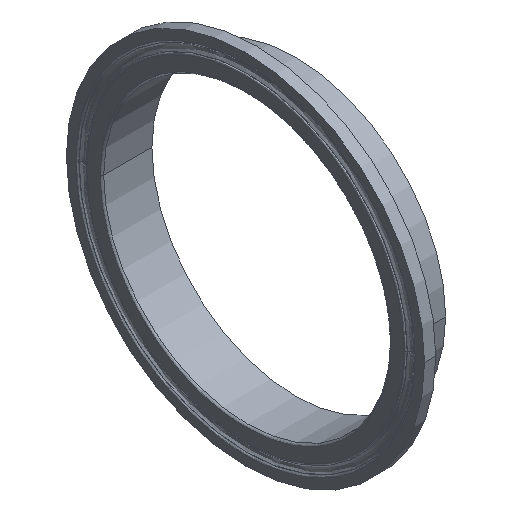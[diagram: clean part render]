
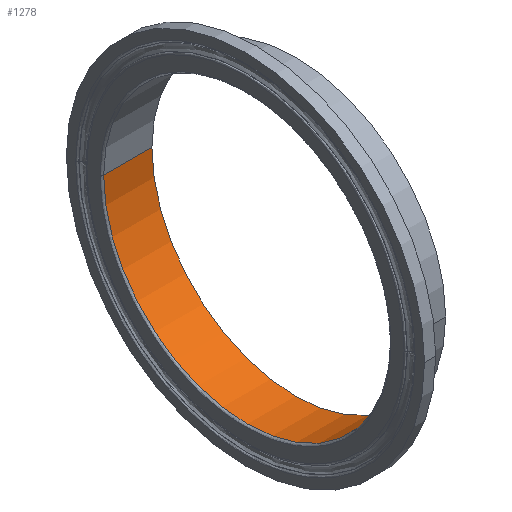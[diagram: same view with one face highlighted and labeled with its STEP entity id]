
A CAD part, isometric view. The second image highlights one B-rep face of the part: STEP entity #1278.
In plain terms, the highlighted cylindrical face has radius 36.449 mm (diameter 72.898 mm), a partial arc.
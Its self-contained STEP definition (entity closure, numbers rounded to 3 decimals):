
#8 = EDGE_CURVE ( 'NONE', #343, #476, #1443, .T. ) ;
#51 = CARTESIAN_POINT ( 'NONE',  ( 0., 36.449, 0. ) ) ;
#242 = DIRECTION ( 'NONE',  ( 0., 1., 0. ) ) ;
#269 = CYLINDRICAL_SURFACE ( 'NONE', #818, 36.449 ) ;
#314 = CARTESIAN_POINT ( 'NONE',  ( -12.243, 0., 0. ) ) ;
#330 = ORIENTED_EDGE ( 'NONE', *, *, #8, .F. ) ;
#342 = CARTESIAN_POINT ( 'NONE',  ( 0., 0., 0. ) ) ;
#343 = VERTEX_POINT ( 'NONE', #1015 ) ;
#391 = VECTOR ( 'NONE', #1059, 1000. ) ;
#399 = DIRECTION ( 'NONE',  ( 0., 1., 0. ) ) ;
#429 = CIRCLE ( 'NONE', #917, 36.449 ) ;
#476 = VERTEX_POINT ( 'NONE', #51 ) ;
#562 = DIRECTION ( 'NONE',  ( 1., 0., 0. ) ) ;
#584 = DIRECTION ( 'NONE',  ( -1., 0., 0. ) ) ;
#644 = AXIS2_PLACEMENT_3D ( 'NONE', #342, #584, #242 ) ;
#648 = ORIENTED_EDGE ( 'NONE', *, *, #998, .F. ) ;
#818 = AXIS2_PLACEMENT_3D ( 'NONE', #1397, #1383, #1279 ) ;
#845 = VECTOR ( 'NONE', #1430, 1000. ) ;
#873 = CIRCLE ( 'NONE', #644, 36.449 ) ;
#917 = AXIS2_PLACEMENT_3D ( 'NONE', #314, #562, #399 ) ;
#956 = VERTEX_POINT ( 'NONE', #1437 ) ;
#998 = EDGE_CURVE ( 'NONE', #956, #343, #429, .T. ) ;
#1015 = CARTESIAN_POINT ( 'NONE',  ( -12.243, 36.449, 0. ) ) ;
#1059 = DIRECTION ( 'NONE',  ( 1., 0., 0. ) ) ;
#1066 = CARTESIAN_POINT ( 'NONE',  ( 0., -36.449, 0. ) ) ;
#1073 = ORIENTED_EDGE ( 'NONE', *, *, #1162, .T. ) ;
#1128 = ORIENTED_EDGE ( 'NONE', *, *, #1312, .F. ) ;
#1162 = EDGE_CURVE ( 'NONE', #956, #1174, #1307, .T. ) ;
#1174 = VERTEX_POINT ( 'NONE', #1066 ) ;
#1237 = FACE_OUTER_BOUND ( 'NONE', #1507, .T. ) ;
#1278 = ADVANCED_FACE ( 'NONE', ( #1237 ), #269, .F. ) ;
#1279 = DIRECTION ( 'NONE',  ( 0., 1., 0. ) ) ;
#1307 = LINE ( 'NONE', #1434, #391 ) ;
#1312 = EDGE_CURVE ( 'NONE', #476, #1174, #873, .T. ) ;
#1383 = DIRECTION ( 'NONE',  ( 1., 0., 0. ) ) ;
#1397 = CARTESIAN_POINT ( 'NONE',  ( 45.786, 0., 0. ) ) ;
#1414 = CARTESIAN_POINT ( 'NONE',  ( 45.786, 36.449, 0. ) ) ;
#1430 = DIRECTION ( 'NONE',  ( 1., 0., 0. ) ) ;
#1434 = CARTESIAN_POINT ( 'NONE',  ( 45.786, -36.449, 0. ) ) ;
#1437 = CARTESIAN_POINT ( 'NONE',  ( -12.243, -36.449, 0. ) ) ;
#1443 = LINE ( 'NONE', #1414, #845 ) ;
#1507 = EDGE_LOOP ( 'NONE', ( #648, #1073, #1128, #330 ) ) ;
